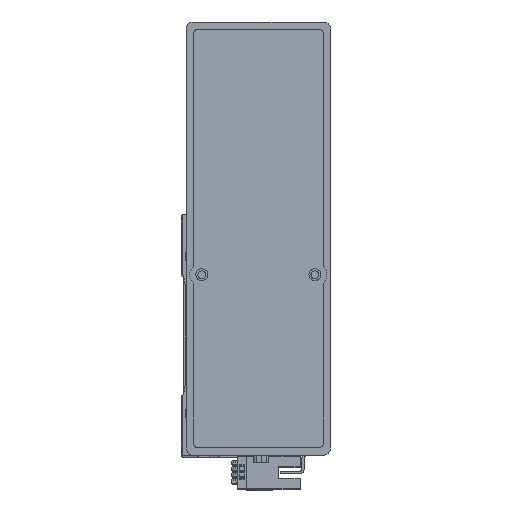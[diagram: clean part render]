
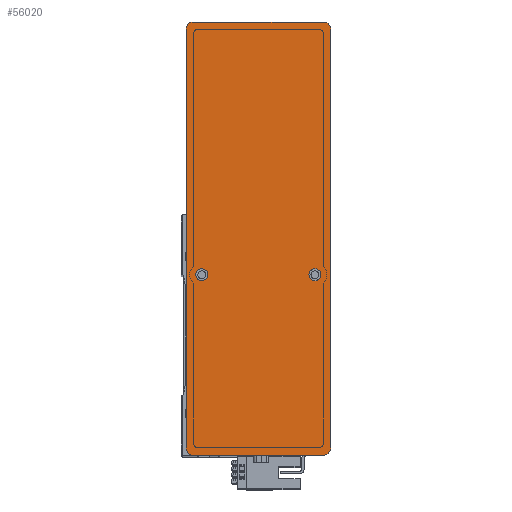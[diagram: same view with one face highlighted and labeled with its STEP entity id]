
A CAD part, top view. The second image highlights one B-rep face of the part: STEP entity #56020.
In plain terms, the highlighted planar face has unit normal (0, 0, 1) as drawn and (0, 0, -1) by its records, which use the part's own axes.
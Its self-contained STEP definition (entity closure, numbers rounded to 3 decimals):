
#95 = CARTESIAN_POINT ( 'NONE',  ( -12.5, 23.5, 0. ) ) ;
#206 = LINE ( 'NONE', #13979, #1573 ) ;
#988 = CARTESIAN_POINT ( 'NONE',  ( -12.5, -23.5, 0. ) ) ;
#1018 = ORIENTED_EDGE ( 'NONE', *, *, #13508, .T. ) ;
#1573 = VECTOR ( 'NONE', #27035, 1000. ) ;
#2037 = CIRCLE ( 'NONE', #4757, 2.5 ) ;
#2047 = VERTEX_POINT ( 'NONE', #21864 ) ;
#2895 = DIRECTION ( 'NONE',  ( 0., 0., -1. ) ) ;
#2958 = CIRCLE ( 'NONE', #32909, 2.5 ) ;
#3034 = CARTESIAN_POINT ( 'NONE',  ( -15., 23.5, 0. ) ) ;
#3796 = CARTESIAN_POINT ( 'NONE',  ( -90., -30., 0. ) ) ;
#4164 = DIRECTION ( 'NONE',  ( 0., 0., -1. ) ) ;
#4425 = EDGE_CURVE ( 'NONE', #49960, #14831, #45381, .T. ) ;
#4757 = AXIS2_PLACEMENT_3D ( 'NONE', #25182, #55394, #29518 ) ;
#4768 = CARTESIAN_POINT ( 'NONE',  ( 90., -30., 0. ) ) ;
#5434 = CARTESIAN_POINT ( 'NONE',  ( 90., 27., 0. ) ) ;
#7220 = ORIENTED_EDGE ( 'NONE', *, *, #43759, .F. ) ;
#7376 = DIRECTION ( 'NONE',  ( -1., 0., 0. ) ) ;
#7800 = DIRECTION ( 'NONE',  ( 0., 0., -1. ) ) ;
#8085 = DIRECTION ( 'NONE',  ( 0., 0., -1. ) ) ;
#8332 = FACE_BOUND ( 'NONE', #49832, .T. ) ;
#9163 = PLANE ( 'NONE',  #49816 ) ;
#9975 = EDGE_CURVE ( 'NONE', #52496, #43447, #28092, .T. ) ;
#10003 = VERTEX_POINT ( 'NONE', #988 ) ;
#10838 = ORIENTED_EDGE ( 'NONE', *, *, #46717, .T. ) ;
#13508 = EDGE_CURVE ( 'NONE', #33229, #43447, #47248, .T. ) ;
#13725 = DIRECTION ( 'NONE',  ( 0., 0., -1. ) ) ;
#13979 = CARTESIAN_POINT ( 'NONE',  ( 90., -30., 0. ) ) ;
#14644 = CIRCLE ( 'NONE', #27839, 2.5 ) ;
#14831 = VERTEX_POINT ( 'NONE', #22744 ) ;
#15047 = CIRCLE ( 'NONE', #16607, 2.5 ) ;
#15395 = ORIENTED_EDGE ( 'NONE', *, *, #40886, .F. ) ;
#16607 = AXIS2_PLACEMENT_3D ( 'NONE', #3034, #33194, #7376 ) ;
#17490 = CARTESIAN_POINT ( 'NONE',  ( -90., 27., 0. ) ) ;
#17865 = CARTESIAN_POINT ( 'NONE',  ( 0., 0., 0. ) ) ;
#19087 = EDGE_LOOP ( 'NONE', ( #41888, #25587, #15395, #19127, #24040, #10838, #29078, #1018 ) ) ;
#19127 = ORIENTED_EDGE ( 'NONE', *, *, #51638, .T. ) ;
#20419 = VERTEX_POINT ( 'NONE', #26254 ) ;
#21151 = AXIS2_PLACEMENT_3D ( 'NONE', #51230, #25343, #55567 ) ;
#21864 = CARTESIAN_POINT ( 'NONE',  ( -87., 30., 0. ) ) ;
#22114 = EDGE_LOOP ( 'NONE', ( #48197, #37240 ) ) ;
#22157 = DIRECTION ( 'NONE',  ( 1., 0., 0. ) ) ;
#22744 = CARTESIAN_POINT ( 'NONE',  ( -90., -27., 0. ) ) ;
#24040 = ORIENTED_EDGE ( 'NONE', *, *, #4425, .F. ) ;
#24353 = CIRCLE ( 'NONE', #21151, 3. ) ;
#25182 = CARTESIAN_POINT ( 'NONE',  ( -15., -23.5, 0. ) ) ;
#25343 = DIRECTION ( 'NONE',  ( 0., 0., -1. ) ) ;
#25587 = ORIENTED_EDGE ( 'NONE', *, *, #28812, .T. ) ;
#26254 = CARTESIAN_POINT ( 'NONE',  ( -17.5, 23.5, 0. ) ) ;
#26529 = CARTESIAN_POINT ( 'NONE',  ( 90., 30., 0. ) ) ;
#26721 = VECTOR ( 'NONE', #35323, 1000. ) ;
#27035 = DIRECTION ( 'NONE',  ( 1., 0., 0. ) ) ;
#27839 = AXIS2_PLACEMENT_3D ( 'NONE', #28754, #2895, #33044 ) ;
#28092 = LINE ( 'NONE', #4768, #26721 ) ;
#28754 = CARTESIAN_POINT ( 'NONE',  ( -15., -23.5, 0. ) ) ;
#28812 = EDGE_CURVE ( 'NONE', #52496, #53982, #24353, .T. ) ;
#29078 = ORIENTED_EDGE ( 'NONE', *, *, #41723, .F. ) ;
#29518 = DIRECTION ( 'NONE',  ( -1., 0., 0. ) ) ;
#29770 = CIRCLE ( 'NONE', #36523, 3. ) ;
#29997 = CARTESIAN_POINT ( 'NONE',  ( 87., 27., 0. ) ) ;
#32909 = AXIS2_PLACEMENT_3D ( 'NONE', #33621, #7800, #37998 ) ;
#33044 = DIRECTION ( 'NONE',  ( -1., 0., 0. ) ) ;
#33194 = DIRECTION ( 'NONE',  ( 0., 0., -1. ) ) ;
#33229 = VERTEX_POINT ( 'NONE', #48979 ) ;
#33474 = AXIS2_PLACEMENT_3D ( 'NONE', #33913, #8085, #38254 ) ;
#33621 = CARTESIAN_POINT ( 'NONE',  ( -15., 23.5, 0. ) ) ;
#33913 = CARTESIAN_POINT ( 'NONE',  ( -87., 27., 0. ) ) ;
#33977 = DIRECTION ( 'NONE',  ( 0., -1., 0. ) ) ;
#34203 = VERTEX_POINT ( 'NONE', #54514 ) ;
#34354 = DIRECTION ( 'NONE',  ( 1., 0., 0. ) ) ;
#35323 = DIRECTION ( 'NONE',  ( 0., 1., 0. ) ) ;
#36523 = AXIS2_PLACEMENT_3D ( 'NONE', #39591, #13725, #43897 ) ;
#37240 = ORIENTED_EDGE ( 'NONE', *, *, #40617, .F. ) ;
#37605 = CARTESIAN_POINT ( 'NONE',  ( 90., -27., 0. ) ) ;
#37998 = DIRECTION ( 'NONE',  ( -1., 0., 0. ) ) ;
#38254 = DIRECTION ( 'NONE',  ( 1., 0., 0. ) ) ;
#39541 = DIRECTION ( 'NONE',  ( -1., 0., 0. ) ) ;
#39591 = CARTESIAN_POINT ( 'NONE',  ( -87., -27., 0. ) ) ;
#39800 = ORIENTED_EDGE ( 'NONE', *, *, #42607, .F. ) ;
#39885 = CARTESIAN_POINT ( 'NONE',  ( 87., -30., 0. ) ) ;
#40063 = VECTOR ( 'NONE', #39541, 1000. ) ;
#40617 = EDGE_CURVE ( 'NONE', #43858, #20419, #2958, .T. ) ;
#40886 = EDGE_CURVE ( 'NONE', #34203, #53982, #206, .T. ) ;
#41723 = EDGE_CURVE ( 'NONE', #33229, #2047, #51559, .T. ) ;
#41888 = ORIENTED_EDGE ( 'NONE', *, *, #9975, .F. ) ;
#42600 = AXIS2_PLACEMENT_3D ( 'NONE', #29997, #4164, #34354 ) ;
#42607 = EDGE_CURVE ( 'NONE', #10003, #46382, #14644, .T. ) ;
#42721 = FACE_BOUND ( 'NONE', #22114, .T. ) ;
#42843 = CARTESIAN_POINT ( 'NONE',  ( -17.5, -23.5, 0. ) ) ;
#43447 = VERTEX_POINT ( 'NONE', #5434 ) ;
#43759 = EDGE_CURVE ( 'NONE', #46382, #10003, #2037, .T. ) ;
#43858 = VERTEX_POINT ( 'NONE', #95 ) ;
#43897 = DIRECTION ( 'NONE',  ( 1., 0., 0. ) ) ;
#45381 = LINE ( 'NONE', #3796, #46765 ) ;
#46382 = VERTEX_POINT ( 'NONE', #42843 ) ;
#46717 = EDGE_CURVE ( 'NONE', #49960, #2047, #51180, .T. ) ;
#46765 = VECTOR ( 'NONE', #33977, 1000. ) ;
#47248 = CIRCLE ( 'NONE', #42600, 3. ) ;
#48019 = DIRECTION ( 'NONE',  ( 0., 0., 1. ) ) ;
#48197 = ORIENTED_EDGE ( 'NONE', *, *, #51008, .F. ) ;
#48979 = CARTESIAN_POINT ( 'NONE',  ( 87., 30., 0. ) ) ;
#49816 = AXIS2_PLACEMENT_3D ( 'NONE', #17865, #48019, #22157 ) ;
#49832 = EDGE_LOOP ( 'NONE', ( #7220, #39800 ) ) ;
#49960 = VERTEX_POINT ( 'NONE', #17490 ) ;
#51008 = EDGE_CURVE ( 'NONE', #20419, #43858, #15047, .T. ) ;
#51180 = CIRCLE ( 'NONE', #33474, 3. ) ;
#51230 = CARTESIAN_POINT ( 'NONE',  ( 87., -27., 0. ) ) ;
#51559 = LINE ( 'NONE', #26529, #40063 ) ;
#51638 = EDGE_CURVE ( 'NONE', #34203, #14831, #29770, .T. ) ;
#52496 = VERTEX_POINT ( 'NONE', #37605 ) ;
#52900 = FACE_OUTER_BOUND ( 'NONE', #19087, .T. ) ;
#53982 = VERTEX_POINT ( 'NONE', #39885 ) ;
#54514 = CARTESIAN_POINT ( 'NONE',  ( -87., -30., 0. ) ) ;
#55394 = DIRECTION ( 'NONE',  ( 0., 0., -1. ) ) ;
#55567 = DIRECTION ( 'NONE',  ( 1., 0., 0. ) ) ;
#56020 = ADVANCED_FACE ( 'NONE', ( #42721, #8332, #52900 ), #9163, .F. ) ;
